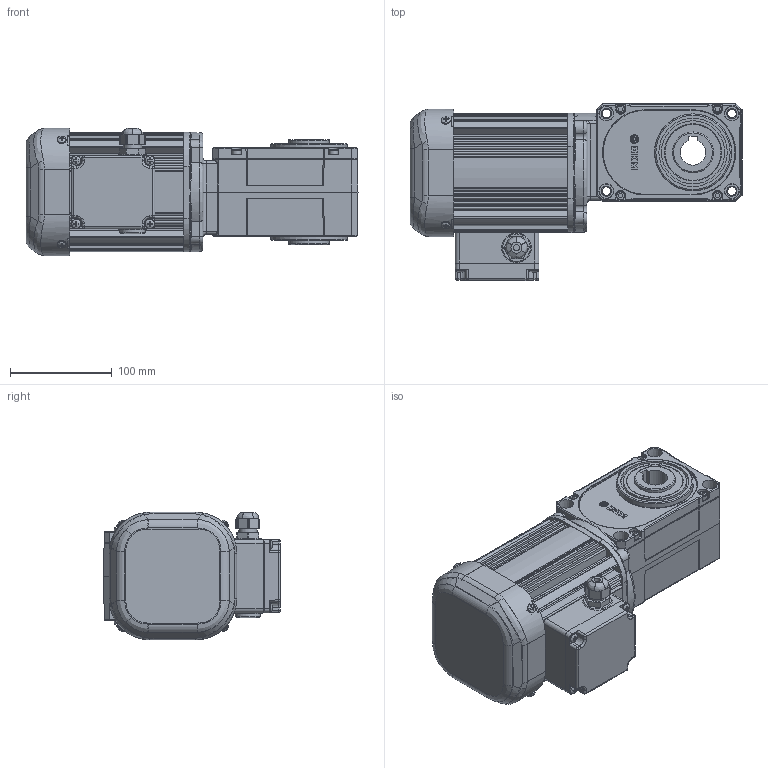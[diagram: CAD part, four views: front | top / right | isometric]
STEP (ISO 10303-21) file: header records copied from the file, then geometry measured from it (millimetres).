
FILE_DESCRIPTION (( 'STEP AP214' ), '1' );
FILE_NAME ('DSY25B-(7.5~30)N040-¤±.STEP', '2025-01-17T05:31:27', ( '' ), ( '' ), 'SwSTEP 2.0', 'SolidWorks 2024', '' );
FILE_SCHEMA (( 'AUTOMOTIVE_DESIGN' ));
Length unit declared in the file: millimetre
Products named in the file (14): DKM 0.4kW 인발프레임; COVER-DSY04S-DC; DKM 단자대 상부수정도(20200120); 단자박스 하 수정; 고무패킹-하; DKM 0.4kW 뒤커버; 프렉시블_표준; 단자박스 마개; 0.4KW 모터; DSY25B-(7.5~30)N040-ㅁ; CASE-DSY04S-DC; dkm 0.4kW 팬커버; DSY04S 감속기; 단자박스 ASS''Y
Assembly tree (13 placements, depth 3):
  DSY25B-(7.5~30)N040-ㅁ
    DSY04S 감속기
      CASE-DSY04S-DC
      COVER-DSY04S-DC
    0.4KW 모터
      DKM 0.4kW 인발프레임
      DKM 0.4kW 뒤커버
      dkm 0.4kW 팬커버
    단자박스 ASS''Y
      단자박스 하 수정
      프렉시블_표준
      단자박스 마개
      DKM 단자대 상부수정도(20200120)
      고무패킹-하
Bounding box: 325.5 x 173.5 x 125.06 mm (x, y, z)
Volume: 3128034.5 mm3; surface area: 408868.3 mm2
Topology: 10 solids, 10 shells, 1576 faces, 4049 edges, 2531 vertices
Faces by surface type: plane 737, cylinder 494, bspline 219, torus 63, cone 62, sphere 1
Full cylindrical faces by diameter (mm): 0.2 x3, 3.017 x2, 3.981 x2, 4.3 x4, 4.5 x4, 5 x8, 5.3 x4, 5.5 x4, 6 x1, 8.5 x12, 9 x4, 10 x8, 10.8 x1, 14 x4, 16.5 x1, 18 x1, 19 x2, 20 x3, 25 x1, 35 x1, 40 x3, 55 x1, 62 x2, 67 x2, 94.1 x1
Entity records: 58559 total; most frequent: CARTESIAN_POINT 22036, ORIENTED_EDGE 7698, DIRECTION 7054, EDGE_CURVE 3849, VERTEX_POINT 2497, AXIS2_PLACEMENT_3D 2461, VECTOR 2132, LINE 2132
